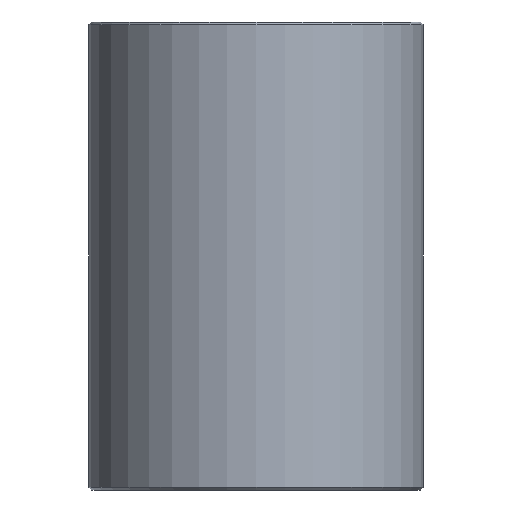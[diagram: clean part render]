
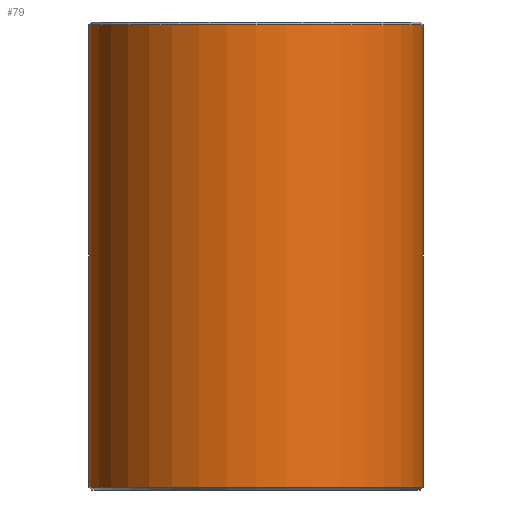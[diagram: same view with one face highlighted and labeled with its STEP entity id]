
A CAD part, front view. The second image highlights one B-rep face of the part: STEP entity #79.
In plain terms, the highlighted cylindrical face has radius 12.5 mm (diameter 25 mm), a full revolution.
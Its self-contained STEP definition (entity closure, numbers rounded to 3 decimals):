
#79=ADVANCED_FACE('',(#96,#97),#98,.T.);
#96=FACE_OUTER_BOUND('',#120,.T.);
#97=FACE_OUTER_BOUND('',#121,.T.);
#98=CYLINDRICAL_SURFACE('',#122,12.5);
#120=EDGE_LOOP('',(#152));
#121=EDGE_LOOP('',(#153));
#122=AXIS2_PLACEMENT_3D('',#154,#155,#156);
#152=ORIENTED_EDGE('',*,*,#178,.T.);
#153=ORIENTED_EDGE('',*,*,#177,.T.);
#154=CARTESIAN_POINT('',(0.0,0.0,35.0));
#155=DIRECTION('',(0.0,0.0,-1.0));
#156=DIRECTION('',(-1.0,0.0,0.0));
#177=EDGE_CURVE('',#190,#190,#191,.T.);
#178=EDGE_CURVE('',#192,#192,#193,.F.);
#190=VERTEX_POINT('',#206);
#191=CIRCLE('',#207,12.5);
#192=VERTEX_POINT('',#208);
#193=CIRCLE('',#209,12.5);
#206=CARTESIAN_POINT('',(12.5,0.0,0.2));
#207=AXIS2_PLACEMENT_3D('',#227,#228,#229);
#208=CARTESIAN_POINT('',(12.5,0.,34.8));
#209=AXIS2_PLACEMENT_3D('',#230,#231,#232);
#227=CARTESIAN_POINT('',(0.0,0.0,0.2));
#228=DIRECTION('',(0.0,0.0,1.0));
#229=DIRECTION('',(1.0,0.0,0.0));
#230=CARTESIAN_POINT('',(0.0,0.0,34.8));
#231=DIRECTION('',(0.0,0.0,1.0));
#232=DIRECTION('',(1.0,0.0,0.0));
